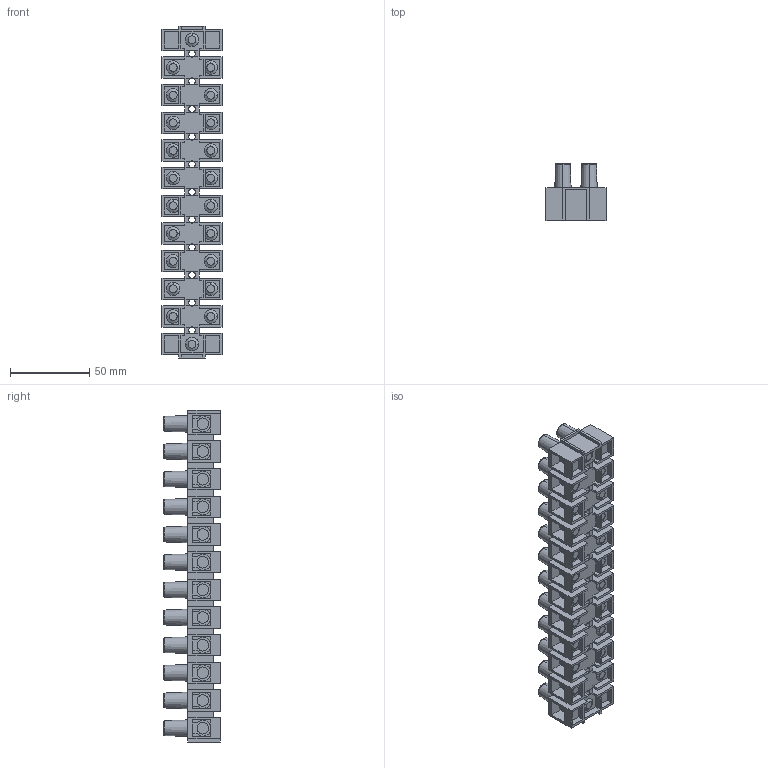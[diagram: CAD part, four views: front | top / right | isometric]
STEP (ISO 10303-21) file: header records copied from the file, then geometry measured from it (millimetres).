
FILE_DESCRIPTION (( 'STEP AP214' ), '1' );
FILE_NAME ('328-12.STEP', '2020-12-15T19:28:05', ( '' ), ( '' ), 'SwSTEP 2.0', 'SolidWorks 2016', '' );
FILE_SCHEMA (( 'AUTOMOTIVE_DESIGN' ));
Length unit declared in the file: millimetre
Products named in the file (1): 328-12
Bounding box: 38 x 35.8 x 210 mm (x, y, z)
Volume: 110433.9 mm3; surface area: 70575.8 mm2
Topology: 1 solids, 1 shells, 1771 faces, 4902 edges, 3244 vertices
Faces by surface type: plane 1079, cylinder 394, torus 129, cone 121, bspline 48
Entity records: 59391 total; most frequent: CARTESIAN_POINT 13210, ORIENTED_EDGE 9804, DIRECTION 9695, EDGE_CURVE 4902, AXIS2_PLACEMENT_3D 3401, VERTEX_POINT 3244, LINE 2893, VECTOR 2893
